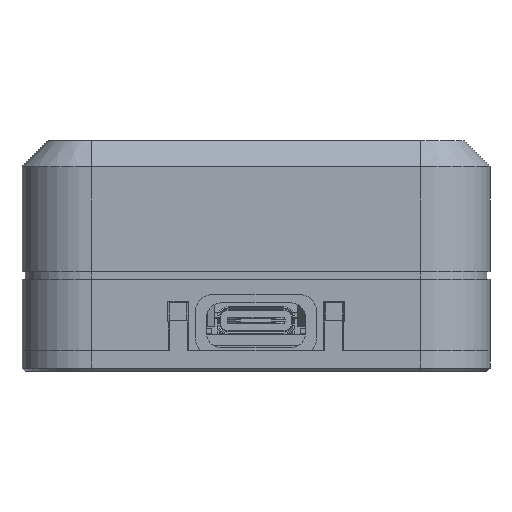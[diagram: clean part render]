
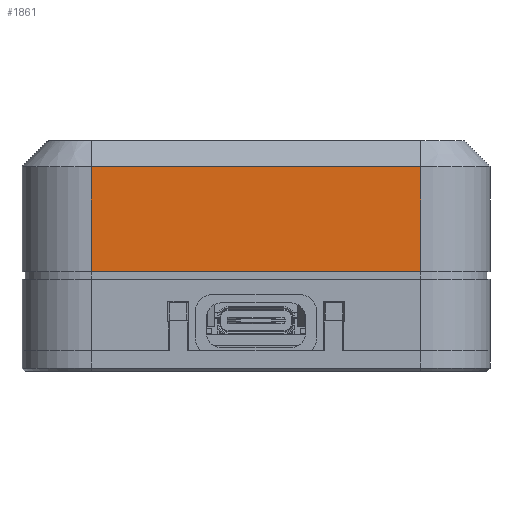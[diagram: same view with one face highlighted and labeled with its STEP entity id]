
A CAD part, front view. The second image highlights one B-rep face of the part: STEP entity #1861.
In plain terms, the highlighted planar face has unit normal (0, -1, 0).
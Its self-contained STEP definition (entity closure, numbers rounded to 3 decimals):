
#257 = PLANE('',#258);
#258 = AXIS2_PLACEMENT_3D('',#259,#260,#261);
#259 = CARTESIAN_POINT('',(19.,-22.5,25.1));
#260 = DIRECTION('',(0.,0.707,-0.707)
  );
#261 = DIRECTION('',(1.,0.,0.));
#855 = VERTEX_POINT('',#856);
#856 = CARTESIAN_POINT('',(19.,-24.,23.6));
#890 = CYLINDRICAL_SURFACE('',#891,8.);
#891 = AXIS2_PLACEMENT_3D('',#892,#893,#894);
#892 = CARTESIAN_POINT('',(19.,-16.,2.4));
#893 = DIRECTION('',(0.,0.,1.));
#894 = DIRECTION('',(1.,0.,-0.));
#908 = VERTEX_POINT('',#909);
#909 = CARTESIAN_POINT('',(-19.,-24.,23.6));
#928 = EDGE_CURVE('',#855,#908,#929,.T.);
#929 = SURFACE_CURVE('',#930,(#934,#941),.PCURVE_S1.);
#930 = LINE('',#931,#932);
#931 = CARTESIAN_POINT('',(19.,-24.,23.6));
#932 = VECTOR('',#933,1.);
#933 = DIRECTION('',(-1.,-0.,-0.));
#934 = PCURVE('',#257,#935);
#935 = DEFINITIONAL_REPRESENTATION('',(#936),#940);
#936 = LINE('',#937,#938);
#937 = CARTESIAN_POINT('',(-0.,2.121));
#938 = VECTOR('',#939,1.);
#939 = DIRECTION('',(-1.,0.));
#940 = ( GEOMETRIC_REPRESENTATION_CONTEXT(2) 
PARAMETRIC_REPRESENTATION_CONTEXT() REPRESENTATION_CONTEXT('2D SPACE',''
  ) );
#941 = PCURVE('',#942,#947);
#942 = PLANE('',#943);
#943 = AXIS2_PLACEMENT_3D('',#944,#945,#946);
#944 = CARTESIAN_POINT('',(-27.,-24.,2.4));
#945 = DIRECTION('',(0.,1.,0.));
#946 = DIRECTION('',(0.,0.,1.));
#947 = DEFINITIONAL_REPRESENTATION('',(#948),#952);
#948 = LINE('',#949,#950);
#949 = CARTESIAN_POINT('',(21.2,46.));
#950 = VECTOR('',#951,1.);
#951 = DIRECTION('',(0.,-1.));
#952 = ( GEOMETRIC_REPRESENTATION_CONTEXT(2) 
PARAMETRIC_REPRESENTATION_CONTEXT() REPRESENTATION_CONTEXT('2D SPACE',''
  ) );
#1035 = CYLINDRICAL_SURFACE('',#1036,8.);
#1036 = AXIS2_PLACEMENT_3D('',#1037,#1038,#1039);
#1037 = CARTESIAN_POINT('',(-19.,-16.,2.4));
#1038 = DIRECTION('',(0.,0.,1.));
#1039 = DIRECTION('',(-1.,-0.,0.));
#1634 = PLANE('',#1635);
#1635 = AXIS2_PLACEMENT_3D('',#1636,#1637,#1638);
#1636 = CARTESIAN_POINT('',(-27.5,-24.5,11.5));
#1637 = DIRECTION('',(0.,0.,1.));
#1638 = DIRECTION('',(1.,0.,0.));
#1817 = VERTEX_POINT('',#1818);
#1818 = CARTESIAN_POINT('',(19.,-24.,11.5));
#1840 = EDGE_CURVE('',#1817,#855,#1841,.T.);
#1841 = SURFACE_CURVE('',#1842,(#1846,#1853),.PCURVE_S1.);
#1842 = LINE('',#1843,#1844);
#1843 = CARTESIAN_POINT('',(19.,-24.,2.4));
#1844 = VECTOR('',#1845,1.);
#1845 = DIRECTION('',(0.,0.,1.));
#1846 = PCURVE('',#890,#1847);
#1847 = DEFINITIONAL_REPRESENTATION('',(#1848),#1852);
#1848 = LINE('',#1849,#1850);
#1849 = CARTESIAN_POINT('',(-1.571,0.));
#1850 = VECTOR('',#1851,1.);
#1851 = DIRECTION('',(-0.,1.));
#1852 = ( GEOMETRIC_REPRESENTATION_CONTEXT(2) 
PARAMETRIC_REPRESENTATION_CONTEXT() REPRESENTATION_CONTEXT('2D SPACE',''
  ) );
#1853 = PCURVE('',#942,#1854);
#1854 = DEFINITIONAL_REPRESENTATION('',(#1855),#1859);
#1855 = LINE('',#1856,#1857);
#1856 = CARTESIAN_POINT('',(0.,46.));
#1857 = VECTOR('',#1858,1.);
#1858 = DIRECTION('',(1.,0.));
#1859 = ( GEOMETRIC_REPRESENTATION_CONTEXT(2) 
PARAMETRIC_REPRESENTATION_CONTEXT() REPRESENTATION_CONTEXT('2D SPACE',''
  ) );
#1861 = ADVANCED_FACE('',(#1862),#942,.F.);
#1862 = FACE_BOUND('',#1863,.F.);
#1863 = EDGE_LOOP('',(#1864,#1885,#1906,#1907));
#1864 = ORIENTED_EDGE('',*,*,#1865,.F.);
#1865 = EDGE_CURVE('',#1866,#1817,#1868,.T.);
#1866 = VERTEX_POINT('',#1867);
#1867 = CARTESIAN_POINT('',(-19.,-24.,11.5));
#1868 = SURFACE_CURVE('',#1869,(#1873,#1879),.PCURVE_S1.);
#1869 = LINE('',#1870,#1871);
#1870 = CARTESIAN_POINT('',(-27.25,-24.,11.5));
#1871 = VECTOR('',#1872,1.);
#1872 = DIRECTION('',(1.,0.,0.));
#1873 = PCURVE('',#942,#1874);
#1874 = DEFINITIONAL_REPRESENTATION('',(#1875),#1878);
#1875 = B_SPLINE_CURVE_WITH_KNOTS('',1,(#1876,#1877),.UNSPECIFIED.,.F.,
  .F.,(2,2),(8.25,46.25),.PIECEWISE_BEZIER_KNOTS.);
#1876 = CARTESIAN_POINT('',(9.1,8.));
#1877 = CARTESIAN_POINT('',(9.1,46.));
#1878 = ( GEOMETRIC_REPRESENTATION_CONTEXT(2) 
PARAMETRIC_REPRESENTATION_CONTEXT() REPRESENTATION_CONTEXT('2D SPACE',''
  ) );
#1879 = PCURVE('',#1634,#1880);
#1880 = DEFINITIONAL_REPRESENTATION('',(#1881),#1884);
#1881 = B_SPLINE_CURVE_WITH_KNOTS('',1,(#1882,#1883),.UNSPECIFIED.,.F.,
  .F.,(2,2),(8.25,46.25),.PIECEWISE_BEZIER_KNOTS.);
#1882 = CARTESIAN_POINT('',(8.5,0.5));
#1883 = CARTESIAN_POINT('',(46.5,0.5));
#1884 = ( GEOMETRIC_REPRESENTATION_CONTEXT(2) 
PARAMETRIC_REPRESENTATION_CONTEXT() REPRESENTATION_CONTEXT('2D SPACE',''
  ) );
#1885 = ORIENTED_EDGE('',*,*,#1886,.T.);
#1886 = EDGE_CURVE('',#1866,#908,#1887,.T.);
#1887 = SURFACE_CURVE('',#1888,(#1892,#1899),.PCURVE_S1.);
#1888 = LINE('',#1889,#1890);
#1889 = CARTESIAN_POINT('',(-19.,-24.,2.4));
#1890 = VECTOR('',#1891,1.);
#1891 = DIRECTION('',(0.,0.,1.));
#1892 = PCURVE('',#942,#1893);
#1893 = DEFINITIONAL_REPRESENTATION('',(#1894),#1898);
#1894 = LINE('',#1895,#1896);
#1895 = CARTESIAN_POINT('',(0.,8.));
#1896 = VECTOR('',#1897,1.);
#1897 = DIRECTION('',(1.,0.));
#1898 = ( GEOMETRIC_REPRESENTATION_CONTEXT(2) 
PARAMETRIC_REPRESENTATION_CONTEXT() REPRESENTATION_CONTEXT('2D SPACE',''
  ) );
#1899 = PCURVE('',#1035,#1900);
#1900 = DEFINITIONAL_REPRESENTATION('',(#1901),#1905);
#1901 = LINE('',#1902,#1903);
#1902 = CARTESIAN_POINT('',(1.571,0.));
#1903 = VECTOR('',#1904,1.);
#1904 = DIRECTION('',(0.,1.));
#1905 = ( GEOMETRIC_REPRESENTATION_CONTEXT(2) 
PARAMETRIC_REPRESENTATION_CONTEXT() REPRESENTATION_CONTEXT('2D SPACE',''
  ) );
#1906 = ORIENTED_EDGE('',*,*,#928,.F.);
#1907 = ORIENTED_EDGE('',*,*,#1840,.F.);
